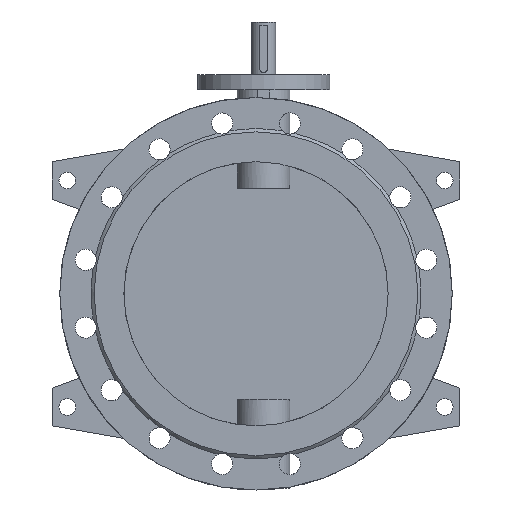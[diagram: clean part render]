
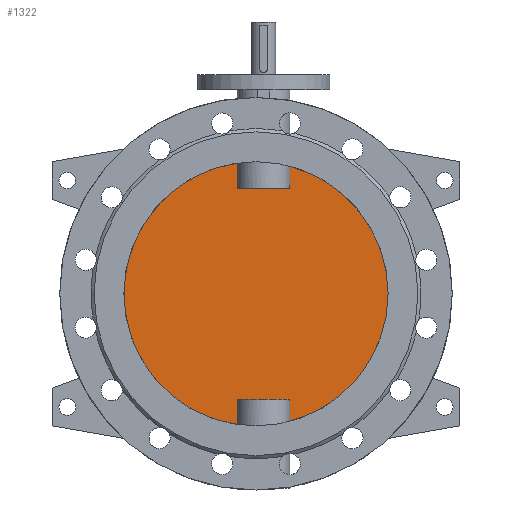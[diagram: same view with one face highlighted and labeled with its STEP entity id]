
A CAD part, front view. The second image highlights one B-rep face of the part: STEP entity #1322.
In plain terms, the highlighted planar face has unit normal (0, -1, 0).
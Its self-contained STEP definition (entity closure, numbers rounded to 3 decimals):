
#1322=ADVANCED_FACE('',(#2704),#2706,.F.);
#2704=FACE_BOUND('',#2705,.T.);
#2705=EDGE_LOOP('',(#3693,#3694,#3695,#3696,#3697,#3698,#3699,#3700));
#2706=PLANE('',#2707);
#2707=AXIS2_PLACEMENT_3D('',#2708,#2709,#2710);
#2708=CARTESIAN_POINT('',(0.,-5.,0.));
#2709=DIRECTION('',(0.,1.,0.));
#2710=DIRECTION('',(1.,0.,0.));
#3693=ORIENTED_EDGE('',*,*,#4198,.T.);
#3694=ORIENTED_EDGE('',*,*,#4204,.T.);
#3695=ORIENTED_EDGE('',*,*,#4205,.T.);
#3696=ORIENTED_EDGE('',*,*,#4206,.T.);
#3697=ORIENTED_EDGE('',*,*,#4200,.T.);
#3698=ORIENTED_EDGE('',*,*,#4207,.T.);
#3699=ORIENTED_EDGE('',*,*,#4208,.T.);
#3700=ORIENTED_EDGE('',*,*,#4209,.T.);
#4198=EDGE_CURVE('',#4989,#4990,#4991,.F.);
#4200=EDGE_CURVE('',#4994,#4992,#4995,.F.);
#4204=EDGE_CURVE('',#4990,#5001,#5002,.T.);
#4205=EDGE_CURVE('',#5001,#5003,#5004,.F.);
#4206=EDGE_CURVE('',#5003,#4994,#5005,.F.);
#4207=EDGE_CURVE('',#4992,#5006,#5007,.F.);
#4208=EDGE_CURVE('',#5006,#5008,#5009,.F.);
#4209=EDGE_CURVE('',#5008,#4989,#5010,.T.);
#4989=VERTEX_POINT('',#10236);
#4990=VERTEX_POINT('',#10237);
#4991=CIRCLE('',#10238,175.);
#4992=VERTEX_POINT('',#10242);
#4994=VERTEX_POINT('',#10340);
#4995=CIRCLE('',#10341,175.);
#5001=VERTEX_POINT('',#10466);
#5002=LINE('',#10467,#10468);
#5003=VERTEX_POINT('',#10470);
#5004=LINE('',#10471,#10472);
#5005=LINE('',#10474,#10475);
#5006=VERTEX_POINT('',#10477);
#5007=LINE('',#10478,#10479);
#5008=VERTEX_POINT('',#10481);
#5009=LINE('',#10482,#10483);
#5010=LINE('',#10485,#10486);
#10236=CARTESIAN_POINT('',(44.641,-5.,-169.21));
#10237=CARTESIAN_POINT('',(44.641,-5.,169.21));
#10238=AXIS2_PLACEMENT_3D('',#10239,#10240,#10241);
#10239=CARTESIAN_POINT('',(0.,-5.,0.));
#10240=DIRECTION('',(0.,1.,0.));
#10241=DIRECTION('',(0.255,0.,0.967));
#10242=CARTESIAN_POINT('',(-24.641,-5.,-173.257));
#10340=CARTESIAN_POINT('',(-24.641,-5.,173.257));
#10341=AXIS2_PLACEMENT_3D('',#10342,#10343,#10344);
#10342=CARTESIAN_POINT('',(0.,-5.,0.));
#10343=DIRECTION('',(0.,1.,0.));
#10344=DIRECTION('',(-0.141,0.,-0.99));
#10466=CARTESIAN_POINT('',(44.641,-5.,140.));
#10467=CARTESIAN_POINT('',(44.641,-5.,169.21));
#10468=VECTOR('',#10469,1.);
#10469=DIRECTION('',(0.,0.,-1.));
#10470=CARTESIAN_POINT('',(-24.641,-5.,140.));
#10471=CARTESIAN_POINT('',(-24.641,-5.,140.));
#10472=VECTOR('',#10473,1.);
#10473=DIRECTION('',(1.,0.,0.));
#10474=CARTESIAN_POINT('',(-24.641,-5.,173.257));
#10475=VECTOR('',#10476,1.);
#10476=DIRECTION('',(0.,0.,-1.));
#10477=CARTESIAN_POINT('',(-24.641,-5.,-140.));
#10478=CARTESIAN_POINT('',(-24.641,-5.,-140.));
#10479=VECTOR('',#10480,1.);
#10480=DIRECTION('',(0.,0.,-1.));
#10481=CARTESIAN_POINT('',(44.641,-5.,-140.));
#10482=CARTESIAN_POINT('',(44.641,-5.,-140.));
#10483=VECTOR('',#10484,1.);
#10484=DIRECTION('',(-1.,0.,0.));
#10485=CARTESIAN_POINT('',(44.641,-5.,-140.));
#10486=VECTOR('',#10487,1.);
#10487=DIRECTION('',(0.,0.,-1.));
